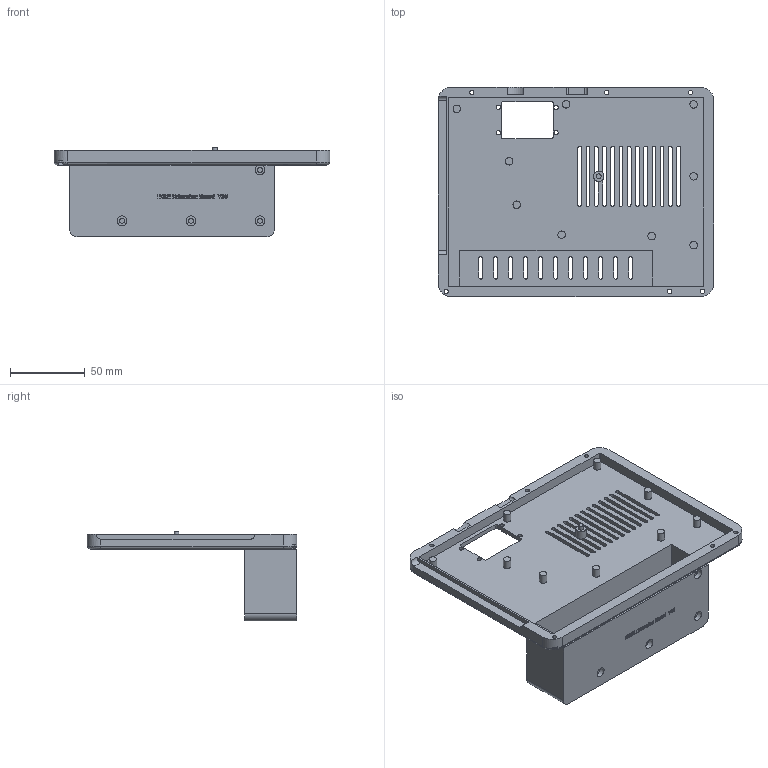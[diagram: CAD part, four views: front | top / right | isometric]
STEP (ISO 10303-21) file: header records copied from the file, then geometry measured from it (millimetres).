
FILE_DESCRIPTION(('Open CASCADE Model'),'2;1');
FILE_NAME('Open CASCADE Shape Model','2026-11-10T13:53:38',('Author'),( 'Open CASCADE'),'Open CASCADE STEP processor 7.7','Open CASCADE 7.7' ,'Unknown');
FILE_SCHEMA(('AUTOMOTIVE_DESIGN { 1 0 10303 214 1 1 1 1 }'));
Products named in the file (1): Open CASCADE STEP translator 7.7 2
Bounding box: 184.1 x 139.7 x 60 mm (x, y, z)
Volume: 176855.9 mm3; surface area: 94124.3 mm2
Topology: 1 solids, 1 shells, 788 faces, 2216 edges, 1473 vertices
Faces by surface type: plane 351, extrusion 266, cylinder 162, torus 5, cone 4
Full cylindrical faces by diameter (mm): 2.9 x10, 3.2 x1, 3.4 x4, 5 x14, 6.5 x4, 7 x1, 10.4 x1, 13.2 x1
Entity records: 55643 total; most frequent: CARTESIAN_POINT 13857, DIRECTION 6604, VECTOR 4569, ORIENTED_EDGE 4432, PCURVE 4432, DEFINITIONAL_REPRESENTATION 4432, LINE 4303, EDGE_CURVE 2216
